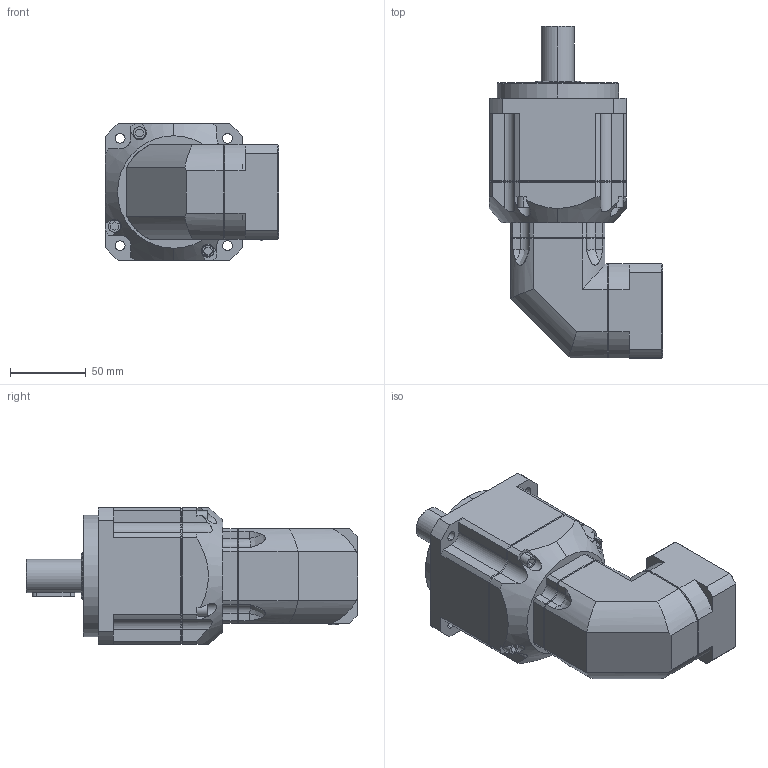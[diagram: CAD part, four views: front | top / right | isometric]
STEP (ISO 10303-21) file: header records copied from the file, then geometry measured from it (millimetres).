
FILE_DESCRIPTION (( 'STEP AP203' ), '1' );
FILE_NAME ('LBR090A-(L2)-S2-P2-5070M4.STEP', '2024-11-15T00:24:44', ( '微软用户' ), ( '微软中国' ), 'SwSTEP 2.0', 'SolidWorks 2022', '' );
FILE_SCHEMA (( 'CONFIG_CONTROL_DESIGN' ));
Length unit declared in the file: millimetre
Products named in the file (1): LBR090A-(L2)-S2-P2-5070M4
Bounding box: 114 x 218.5 x 90 mm (x, y, z)
Volume: 989909.2 mm3; surface area: 117077.5 mm2
Topology: 9 solids, 9 shells, 648 faces, 1546 edges, 920 vertices
Faces by surface type: plane 268, cylinder 175, cone 165, bspline 28, torus 12
Entity records: 21115 total; most frequent: CARTESIAN_POINT 6523, ORIENTED_EDGE 3024, DIRECTION 2982, EDGE_CURVE 1512, AXIS2_PLACEMENT_3D 1131, VERTEX_POINT 920, LINE 720, VECTOR 720
